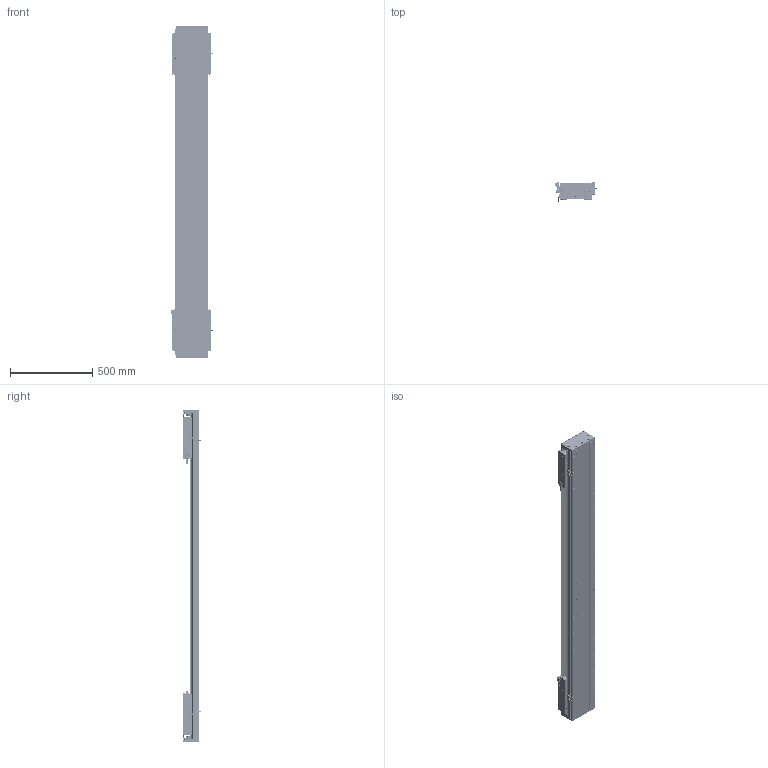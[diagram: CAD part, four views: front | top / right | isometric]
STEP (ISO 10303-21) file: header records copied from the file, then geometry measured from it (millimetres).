
FILE_DESCRIPTION (( 'STEP AP203' ), '1' );
FILE_NAME ('DA-C195-2-C3-T1400-C010-0.2 眻盄萇儂.STEP', '2025-08-15T00:41:08', ( '' ), ( '' ), 'SwSTEP 2.0', 'SolidWorks 2019', '' );
FILE_SCHEMA (( 'CONFIG_CONTROL_DESIGN' ));
Length unit declared in the file: millimetre
Products named in the file (19): CU195-C3賑輸-俋楷; DA195詩湍郪璃; DKW-GYP-ZJ-00 笢潔嫖萇覜茼え; IU-CU195-L-00 菁釱(L1980); DA95-HXJ-00 遣喳砎蝶; PM-Y65嫖萇羲壽郪璃; 葩璃 DA95-GT-T-00; DA165-GYP-00 光电感应片(默认); DA-C195-2-C3-T1400-C010-0.2 眻盄萇儂; LMT黍杅芛; DKW-KGZ-ZJ-00 中间光电开关支架; MS200 棠掑喜S315-T240; DKW168-HXJ-ZJ-00 笢潔滅袉砎蝶; DA-C195-GD-DB-H-00 傷啣; IU-CU195-L 菁釱絳寢; DA195詩湍嶺輸; DA195詩湍裔啣; DA195詩湍菜輸; PM-T45ㄗ侂狟ㄘ
Assembly tree (37 placements, depth 3):
  DA-C195-2-C3-T1400-C010-0.2 眻盄萇儂
    DA195詩湍郪璃
      DA195詩湍菜輸  x2
      DA195詩湍裔啣
      DA195詩湍嶺輸  x2
      DA95-HXJ-00 遣喳砎蝶  x8
      DA-C195-GD-DB-H-00 傷啣  x2
    IU-CU195-L 菁釱絳寢
      IU-CU195-L-00 菁釱(L1980)
      葩璃 DA95-GT-T-00  x4
    LMT黍杅芛  x2
    MS200 棠掑喜S315-T240
    PM-T45ㄗ侂狟ㄘ  x4
    DA165-GYP-00 光电感应片(默认)  x2
    PM-Y65嫖萇羲壽郪璃
    DKW168-HXJ-ZJ-00 笢潔滅袉砎蝶
    DKW-GYP-ZJ-00 笢潔嫖萇覜茼え
    DKW-KGZ-ZJ-00 中间光电开关支架
    CU195-C3賑輸-俋楷  x2
Bounding box: 258.2 x 115.45 x 2020 mm (x, y, z)
Volume: 13999547.2 mm3; surface area: 3945076.8 mm2
Topology: 154 solids, 218 shells, 6651 faces, 17511 edges, 10869 vertices
Faces by surface type: cylinder 3058, plane 2541, cone 884, torus 88, sphere 72, bspline 8
Entity records: 137349 total; most frequent: CARTESIAN_POINT 35105, ORIENTED_EDGE 21038, DIRECTION 20544, EDGE_CURVE 10519, AXIS2_PLACEMENT_3D 7537, VERTEX_POINT 6794, LINE 5470, VECTOR 5470
